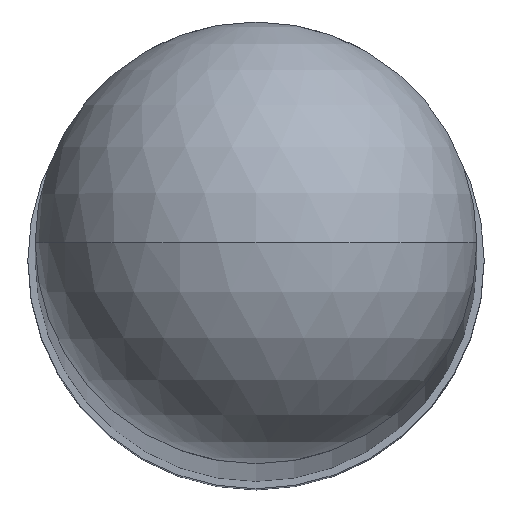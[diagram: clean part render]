
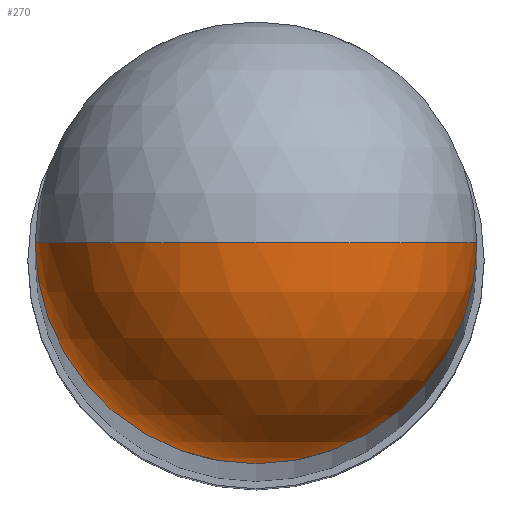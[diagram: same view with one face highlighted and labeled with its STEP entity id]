
A CAD part, top view. The second image highlights one B-rep face of the part: STEP entity #270.
In plain terms, the highlighted spherical face has radius 3 mm.
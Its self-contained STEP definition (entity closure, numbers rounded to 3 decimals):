
#4 = CIRCLE ( 'NONE', #161, 3. ) ;
#8 = CARTESIAN_POINT ( 'NONE',  ( 0., 0., 167. ) ) ;
#9 = VERTEX_POINT ( 'NONE', #135 ) ;
#14 = DIRECTION ( 'NONE',  ( 0., 1., 0. ) ) ;
#19 = DIRECTION ( 'NONE',  ( -1., 0., 0. ) ) ;
#24 = DIRECTION ( 'NONE',  ( 0., 0., -1. ) ) ;
#31 = DIRECTION ( 'NONE',  ( -1., 0., 0. ) ) ;
#41 = VERTEX_POINT ( 'NONE', #172 ) ;
#43 = DIRECTION ( 'NONE',  ( 0., -1., 0. ) ) ;
#47 = CARTESIAN_POINT ( 'NONE',  ( 0., 0., 167. ) ) ;
#66 = CIRCLE ( 'NONE', #312, 3. ) ;
#73 = AXIS2_PLACEMENT_3D ( 'NONE', #115, #43, #24 ) ;
#115 = CARTESIAN_POINT ( 'NONE',  ( 0., 0., 167. ) ) ;
#135 = CARTESIAN_POINT ( 'NONE',  ( 3., 0., 167. ) ) ;
#150 = ORIENTED_EDGE ( 'NONE', *, *, #285, .F. ) ;
#161 = AXIS2_PLACEMENT_3D ( 'NONE', #8, #14, #31 ) ;
#172 = CARTESIAN_POINT ( 'NONE',  ( 0., 0., 170. ) ) ;
#176 = CARTESIAN_POINT ( 'NONE',  ( 0., 0., 167. ) ) ;
#181 = EDGE_CURVE ( 'NONE', #9, #41, #315, .T. ) ;
#192 = VERTEX_POINT ( 'NONE', #263 ) ;
#212 = DIRECTION ( 'NONE',  ( 0., 0., -1. ) ) ;
#239 = EDGE_CURVE ( 'NONE', #192, #41, #4, .T. ) ;
#241 = ORIENTED_EDGE ( 'NONE', *, *, #181, .T. ) ;
#260 = DIRECTION ( 'NONE',  ( 0., 1., 0. ) ) ;
#263 = CARTESIAN_POINT ( 'NONE',  ( -3., 0., 167. ) ) ;
#267 = ORIENTED_EDGE ( 'NONE', *, *, #239, .F. ) ;
#270 = ADVANCED_FACE ( 'NONE', ( #286 ), #297, .T. ) ;
#285 = EDGE_CURVE ( 'NONE', #9, #192, #66, .T. ) ;
#286 = FACE_OUTER_BOUND ( 'NONE', #322, .T. ) ;
#297 = SPHERICAL_SURFACE ( 'NONE', #326, 3. ) ;
#312 = AXIS2_PLACEMENT_3D ( 'NONE', #47, #212, #19 ) ;
#315 = CIRCLE ( 'NONE', #73, 3. ) ;
#322 = EDGE_LOOP ( 'NONE', ( #267, #150, #241 ) ) ;
#326 = AXIS2_PLACEMENT_3D ( 'NONE', #176, #260, #359 ) ;
#359 = DIRECTION ( 'NONE',  ( 1., 0., 0. ) ) ;
